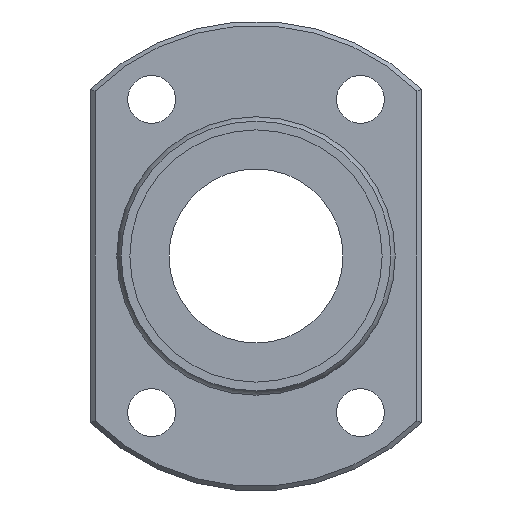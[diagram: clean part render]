
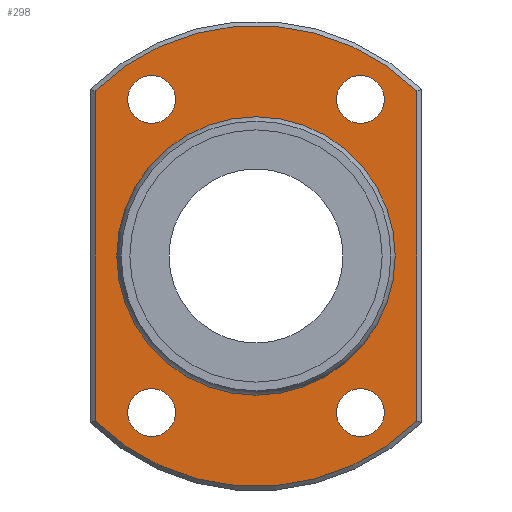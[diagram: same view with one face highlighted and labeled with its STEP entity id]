
A CAD part, left-side view. The second image highlights one B-rep face of the part: STEP entity #298.
In plain terms, the highlighted planar face has unit normal (-1, 0, 0).
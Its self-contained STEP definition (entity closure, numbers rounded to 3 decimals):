
#59=CARTESIAN_POINT('',(13.,18.5,-18.974));
#60=VERTEX_POINT('',#59);
#68=CARTESIAN_POINT('',(13.,18.5,18.974));
#69=VERTEX_POINT('',#68);
#70=CARTESIAN_POINT('',(13.,18.5,-18.974));
#71=DIRECTION('',(0.0,0.0,1.0));
#72=VECTOR('',#71,37.947);
#73=LINE('',#70,#72);
#74=EDGE_CURVE('',#60,#69,#73,.T.);
#101=CARTESIAN_POINT('',(13.,-18.5,18.974));
#102=VERTEX_POINT('',#101);
#103=CARTESIAN_POINT('',(13.,0.0,0.0));
#104=DIRECTION('',(1.0,0.0,0.0));
#105=DIRECTION('',(0.0,0.0,1.0));
#106=AXIS2_PLACEMENT_3D('',#103,#104,#105);
#107=CIRCLE('',#106,26.5);
#108=EDGE_CURVE('',#69,#102,#107,.T.);
#134=CARTESIAN_POINT('',(13.,-18.5,-18.974));
#135=VERTEX_POINT('',#134);
#136=CARTESIAN_POINT('',(13.,-18.5,18.974));
#137=DIRECTION('',(0.0,0.0,-1.0));
#138=VECTOR('',#137,37.947);
#139=LINE('',#136,#138);
#140=EDGE_CURVE('',#102,#135,#139,.T.);
#165=CARTESIAN_POINT('',(13.,0.0,0.0));
#166=DIRECTION('',(1.0,0.0,0.0));
#167=DIRECTION('',(0.0,0.0,-1.0));
#168=AXIS2_PLACEMENT_3D('',#165,#166,#167);
#169=CIRCLE('',#168,26.5);
#170=EDGE_CURVE('',#135,#60,#169,.T.);
#232=CARTESIAN_POINT('',(13.,0.0,21.387));
#233=DIRECTION('',(-1.0,0.0,0.0));
#234=DIRECTION('',(0.0,0.0,1.0));
#235=AXIS2_PLACEMENT_3D('',#232,#233,#234);
#236=PLANE('',#235);
#237=ORIENTED_EDGE('',*,*,#74,.F.);
#238=ORIENTED_EDGE('',*,*,#170,.F.);
#239=ORIENTED_EDGE('',*,*,#140,.F.);
#240=ORIENTED_EDGE('',*,*,#108,.F.);
#241=EDGE_LOOP('',(#237,#238,#239,#240));
#242=FACE_OUTER_BOUND('',#241,.T.);
#243=CARTESIAN_POINT('',(13.,0.0,15.773));
#244=VERTEX_POINT('',#243);
#245=CARTESIAN_POINT('',(13.,0.0,0.0));
#246=DIRECTION('',(-1.0,0.0,0.0));
#247=DIRECTION('',(0.0,0.0,1.0));
#248=AXIS2_PLACEMENT_3D('',#245,#246,#247);
#249=CIRCLE('',#248,15.773);
#250=EDGE_CURVE('',#244,#244,#249,.T.);
#251=ORIENTED_EDGE('',*,*,#250,.F.);
#252=EDGE_LOOP('',(#251));
#253=FACE_BOUND('',#252,.T.);
#254=CARTESIAN_POINT('',(13.,-14.75,-18.));
#255=VERTEX_POINT('',#254);
#256=CARTESIAN_POINT('',(13.,-12.,-18.));
#257=DIRECTION('',(1.0,0.0,0.0));
#258=DIRECTION('',(0.0,1.0,0.0));
#259=AXIS2_PLACEMENT_3D('',#256,#257,#258);
#260=CIRCLE('',#259,2.75);
#261=EDGE_CURVE('',#255,#255,#260,.T.);
#262=ORIENTED_EDGE('',*,*,#261,.T.);
#263=EDGE_LOOP('',(#262));
#264=FACE_BOUND('',#263,.T.);
#265=CARTESIAN_POINT('',(13.,-14.75,18.0));
#266=VERTEX_POINT('',#265);
#267=CARTESIAN_POINT('',(13.,-12.,18.0));
#268=DIRECTION('',(1.0,0.0,0.0));
#269=DIRECTION('',(0.0,1.0,0.0));
#270=AXIS2_PLACEMENT_3D('',#267,#268,#269);
#271=CIRCLE('',#270,2.75);
#272=EDGE_CURVE('',#266,#266,#271,.T.);
#273=ORIENTED_EDGE('',*,*,#272,.T.);
#274=EDGE_LOOP('',(#273));
#275=FACE_BOUND('',#274,.T.);
#276=CARTESIAN_POINT('',(13.,9.25,-18.));
#277=VERTEX_POINT('',#276);
#278=CARTESIAN_POINT('',(13.,12.,-18.));
#279=DIRECTION('',(1.0,0.0,0.0));
#280=DIRECTION('',(0.0,1.0,0.0));
#281=AXIS2_PLACEMENT_3D('',#278,#279,#280);
#282=CIRCLE('',#281,2.75);
#283=EDGE_CURVE('',#277,#277,#282,.T.);
#284=ORIENTED_EDGE('',*,*,#283,.T.);
#285=EDGE_LOOP('',(#284));
#286=FACE_BOUND('',#285,.T.);
#287=CARTESIAN_POINT('',(13.,9.25,18.0));
#288=VERTEX_POINT('',#287);
#289=CARTESIAN_POINT('',(13.,12.,18.0));
#290=DIRECTION('',(1.0,0.0,0.0));
#291=DIRECTION('',(0.0,1.0,0.0));
#292=AXIS2_PLACEMENT_3D('',#289,#290,#291);
#293=CIRCLE('',#292,2.75);
#294=EDGE_CURVE('',#288,#288,#293,.T.);
#295=ORIENTED_EDGE('',*,*,#294,.T.);
#296=EDGE_LOOP('',(#295));
#297=FACE_BOUND('',#296,.T.);
#298=ADVANCED_FACE('',(#242,#253,#264,#275,#286,#297),#236,.T.);
